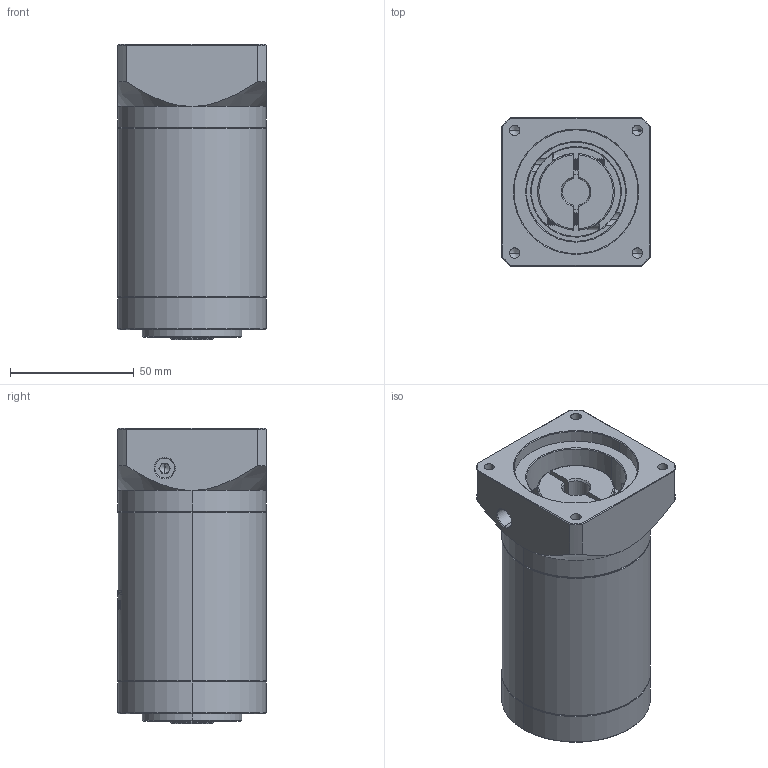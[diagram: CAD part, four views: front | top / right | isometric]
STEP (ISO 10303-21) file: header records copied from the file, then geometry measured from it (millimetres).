
FILE_DESCRIPTION (( 'STEP AP214' ), '1' );
FILE_NAME ('ZE60-K10-L3-11-50-70-M5.STEP', '2022-04-17T15:18:17', ( '' ), ( 'Microsoft' ), 'SwSTEP 2.0', 'SolidWorks 2016', '' );
FILE_SCHEMA (( 'AUTOMOTIVE_DESIGN' ));
Length unit declared in the file: millimetre
Products named in the file (1): ZE60-K10-L3-11-50-70-M5
Bounding box: 60 x 60 x 119 mm (x, y, z)
Volume: 305557.5 mm3; surface area: 48022.4 mm2
Topology: 6 solids, 6 shells, 1533 faces, 4162 edges, 2700 vertices
Faces by surface type: plane 717, cylinder 292, bspline 292, cone 214, torus 18
Entity records: 84223 total; most frequent: CARTESIAN_POINT 32126, ORIENTED_EDGE 8284, DIRECTION 6094, EDGE_CURVE 4142, VERTEX_POINT 2700, VECTOR 2146, LINE 2146, AXIS2_PLACEMENT_3D 1974
